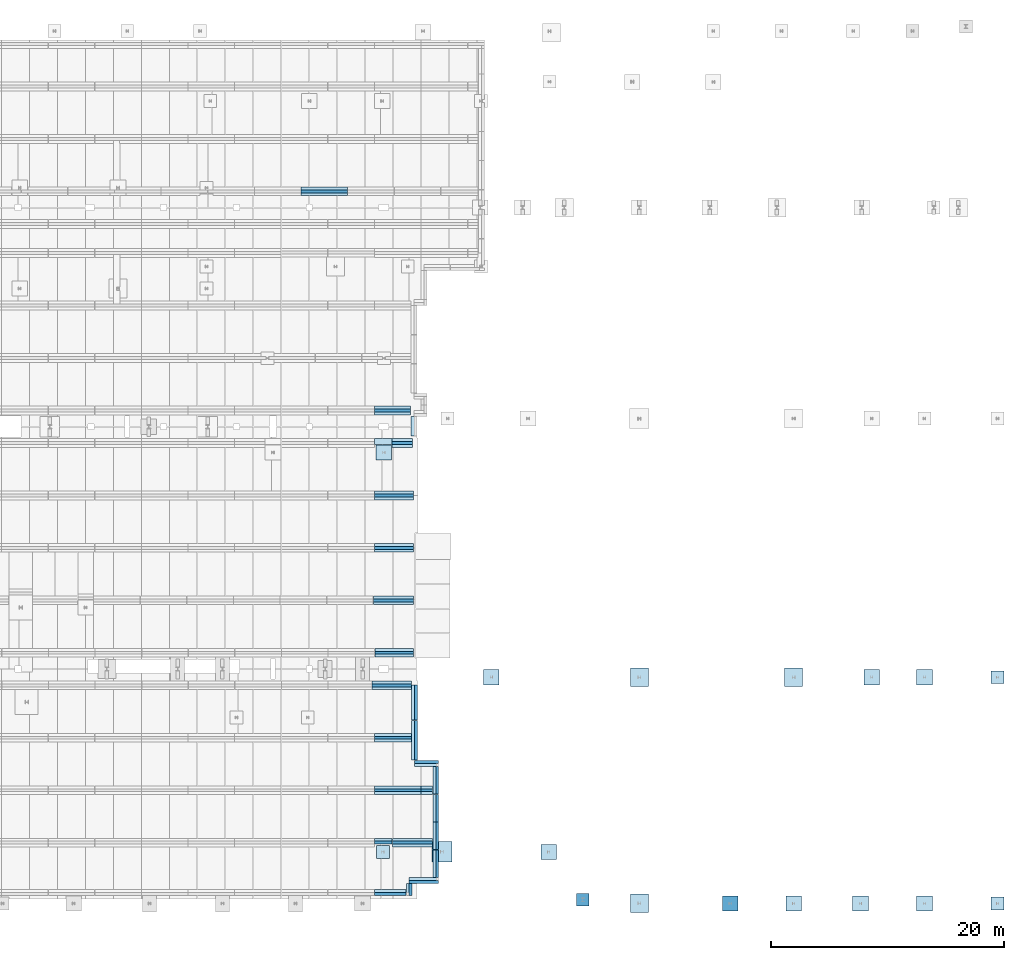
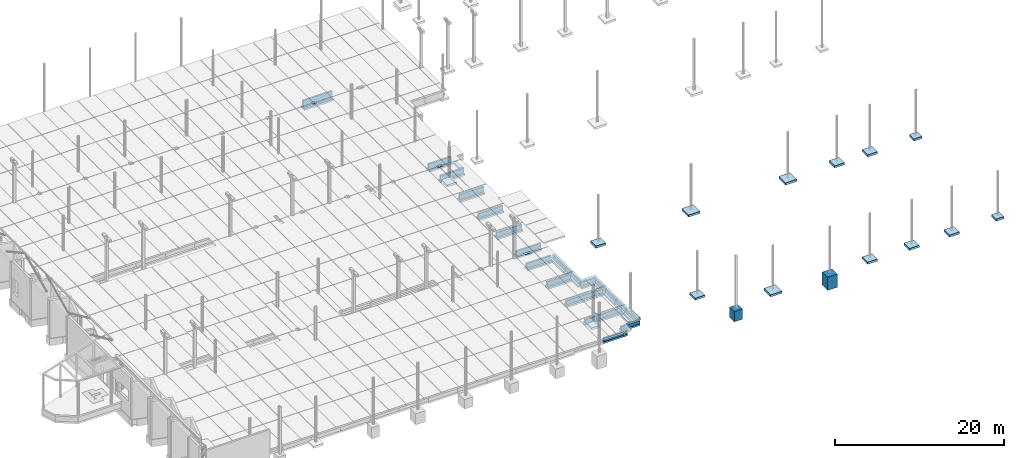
# One storey, part 10 of 59: 65 footings.
"""IFC2X3 building model written with IfcOpenShell, lengths in metres."""

import ifcopenshell
import ifcopenshell.guid

model = None  # the IFC model being written
_history = None  # IfcOwnerHistory: only IFC2X3 demands one
_inside = {}  # id of a spatial element -> (the spatial element, [elements in it])
_under = {}  # id of a project, library or spatial element -> (it, [spatial elements below it])
_declared = {}  # id of a project -> (the project, [libraries it declares])
_typed = {}  # id of a type object -> (the type object, [elements of that type])
_made_of = {}  # id of a material, layer set ... -> (it, [elements and type objects made of it])


def new_model(schema):
    """Start an empty IFC model of exactly this schema.

    Asked for "IFC4X3", IfcOpenShell would pick the latest addendum, in which some entities
    have other attributes; the version numbers below select the first issue.
    IFC2X3 requires an IfcOwnerHistory on every rooted entity: one is made here for all.
    """
    global model, _history
    if schema == "IFC4X3":
        model = ifcopenshell.file(schema_version=(4, 3, 0, 0))
    else:
        model = ifcopenshell.file(schema=schema)
    _inside.clear()
    _under.clear()
    _declared.clear()
    _typed.clear()
    _made_of.clear()
    _history = None
    if model.schema == "IFC2X3":
        org = make("IfcOrganization", Name="unknown")
        user = make(
            "IfcPersonAndOrganization",
            ThePerson=make("IfcPerson", FamilyName="unknown"),
            TheOrganization=org,
        )
        app = make(
            "IfcApplication",
            ApplicationDeveloper=org,
            Version="unknown",
            ApplicationFullName="unknown",
            ApplicationIdentifier="unknown",
        )
        _history = make(
            "IfcOwnerHistory",
            OwningUser=user,
            OwningApplication=app,
            ChangeAction="ADDED",
            CreationDate=0,
        )
    return model


def make(cls, **values):
    """One entity of the class cls with the attributes given. An attribute that is None is left unset."""
    return model.create_entity(
        cls, **{name: value for name, value in values.items() if value is not None}
    )


def entity(cls, *values):
    """Any entity or typed value of the class cls, its attributes in the order of the schema. None: left unset."""
    e = model.create_entity(cls)
    for i, value in enumerate(values):
        if value is not None:
            e[i] = value
    return e


def rooted(cls, **values):
    """An entity with a GlobalId (a new one), such as an element, a storey or a relation."""
    return make(cls, GlobalId=ifcopenshell.guid.new(), OwnerHistory=_history, **values)


def si_unit(unit_type, name, prefix=None):
    """IfcSIUnit, for example si_unit("LENGTHUNIT", "METRE", prefix="MILLI")."""
    return make("IfcSIUnit", UnitType=unit_type, Prefix=prefix, Name=name)


def converted_unit(unit_type, name, factor, base, dimensions=None, offset=None):
    """IfcConversionBasedUnit, such as the inch: factor (a typed value) times the base unit."""
    return make(
        "IfcConversionBasedUnit"
        if offset is None
        else "IfcConversionBasedUnitWithOffset",
        ConversionOffset=offset,
        Dimensions=None
        if dimensions is None
        else entity("IfcDimensionalExponents", *dimensions),
        UnitType=unit_type,
        Name=name,
        ConversionFactor=make(
            "IfcMeasureWithUnit", ValueComponent=factor, UnitComponent=base
        ),
    )


def derived_unit(unit_type, elements):
    """IfcDerivedUnit: a product of units, each with its exponent."""
    return make(
        "IfcDerivedUnit",
        Elements=[
            make("IfcDerivedUnitElement", Unit=unit, Exponent=power)
            for unit, power in elements
        ],
        UnitType=unit_type,
    )


def assignment(units):
    """IfcUnitAssignment: the units of a project."""
    return None if units is None else make("IfcUnitAssignment", Units=units)


def point(xyz):
    """IfcCartesianPoint."""
    return None if xyz is None else make("IfcCartesianPoint", Coordinates=xyz)


def direction(xyz):
    """IfcDirection."""
    return None if xyz is None else make("IfcDirection", DirectionRatios=xyz)


def frame(location, z_axis=None, x_axis=None):
    """IfcAxis2Placement3D, a coordinate frame: its origin and axes. An axis left out is left unset."""
    return make(
        "IfcAxis2Placement3D",
        Location=point(location),
        Axis=direction(z_axis),
        RefDirection=direction(x_axis),
    )


def frame_2d(location, x_axis=None):
    """IfcAxis2Placement2D, a coordinate frame in the plane: its origin and x axis."""
    return make(
        "IfcAxis2Placement2D", Location=point(location), RefDirection=direction(x_axis)
    )


def origin():
    """The frame at (0, 0, 0) with its axes left unset."""
    return frame((0.0, 0.0, 0.0))


def origin_with_axes():
    """The frame at (0, 0, 0) with the z axis (0, 0, 1) and the x axis (1, 0, 0) written out."""
    return frame((0.0, 0.0, 0.0), z_axis=(0.0, 0.0, 1.0), x_axis=(1.0, 0.0, 0.0))


def place(relative_to, where):
    """IfcLocalPlacement: puts the frame where relative to a parent placement (None: the world)."""
    return make(
        "IfcLocalPlacement", PlacementRelTo=relative_to, RelativePlacement=where
    )


def context(
    kind, dimensions, precision=None, world=None, true_north=None, identifier=None
):
    """IfcGeometricRepresentationContext, for example the 3D "Model" context."""
    return make(
        "IfcGeometricRepresentationContext",
        ContextIdentifier=identifier,
        ContextType=kind,
        CoordinateSpaceDimension=dimensions,
        Precision=precision,
        WorldCoordinateSystem=world,
        TrueNorth=true_north,
    )


def subcontext(parent, identifier, kind, view, scale=None):
    """IfcGeometricRepresentationSubContext, for example "Body" below "Model"."""
    return make(
        "IfcGeometricRepresentationSubContext",
        ContextIdentifier=identifier,
        ContextType=kind,
        ParentContext=parent,
        TargetScale=scale,
        TargetView=view,
    )


def project(units=None, contexts=None):
    """IfcProject with its units and contexts."""
    return rooted(
        "IfcProject",
        Name="project",
        RepresentationContexts=contexts,
        UnitsInContext=assignment(units),
    )


def spatial(cls, under=None, at=None, **own):
    """A site, building, storey or space (cls), placed at a placement, below another one or the project."""
    s = rooted(cls, ObjectPlacement=at, **own)
    if under is not None:
        _under.setdefault(under.id(), (under, []))[1].append(s)
    return s


def profile(cls, at=None, kind="AREA", **sizes):
    """A parametric profile (cls). Its sizes go by their IFC names, for example OverallWidth=200.0."""
    return make(cls, ProfileType=kind, Position=at, **sizes)


def rectangle(**sizes):
    """IfcRectangleProfileDef."""
    return profile("IfcRectangleProfileDef", **sizes)


def extrude(swept, where, along, depth):
    """IfcExtrudedAreaSolid: the profile swept, set in the frame where, extruded along a direction by depth."""
    return make(
        "IfcExtrudedAreaSolid",
        SweptArea=swept,
        Position=where,
        ExtrudedDirection=direction(along),
        Depth=depth,
    )


def shape(context_of_items, identifier, shape_type, items):
    """IfcShapeRepresentation: the items that make up one representation, for example the "Body"."""
    return make(
        "IfcShapeRepresentation",
        ContextOfItems=context_of_items,
        RepresentationIdentifier=identifier,
        RepresentationType=shape_type,
        Items=items,
    )


def material(Name=None, Category=None):
    """IfcMaterial."""
    return make("IfcMaterial", Name=Name, Category=Category)


def made_of(thing, what):
    """Note that an element or type object is made of a material, layer set ...; save() writes the relation."""
    if what is not None:
        _made_of.setdefault(what.id(), (what, []))[1].append(thing)
    return thing


def element(
    cls,
    number,
    at=None,
    inside=None,
    cuts=None,
    type_object=None,
    material=None,
    context=None,
    identifier="Body",
    shape_type=None,
    held_by="IfcProductDefinitionShape",
    body=None,
    shapes=None,
    **own,
):
    """One element of the class cls, such as IfcWall. Its Tag is "e" and its number.

    at: its placement. inside: the storey or other place that contains it. cuts: it is an
    opening in that element (IfcRelVoidsElement). A single representation is given by context,
    identifier, shape_type and body (its items); several are given by shapes. held_by: the class
    of the entity that holds the representations. save() writes the other relations.
    """
    e = rooted(cls, Tag="e%d" % number, ObjectPlacement=at, **own)
    if body is not None:
        shapes = [shape(context, identifier, shape_type, body)]
    if shapes is not None:
        e.Representation = make(held_by, Representations=shapes)
    if inside is not None:
        _inside.setdefault(inside.id(), (inside, []))[1].append(e)
    if cuts is not None:
        rooted(
            "IfcRelVoidsElement", RelatingBuildingElement=cuts, RelatedOpeningElement=e
        )
    if type_object is not None:
        _typed.setdefault(type_object.id(), (type_object, []))[1].append(e)
    return made_of(e, material)


def aggregate(whole, parts):
    """IfcRelAggregates: a whole, such as a stair, and the parts it consists of."""
    return rooted("IfcRelAggregates", RelatingObject=whole, RelatedObjects=parts)


def save(model, path):
    """Write the relations noted so far, then the file.

    IfcRelAggregates (storeys below a building ...), IfcRelContainedInSpatialStructure (elements
    in a storey), IfcRelDefinesByType, IfcRelAssociatesMaterial and IfcRelDeclares: one each for
    every whole, place, type object, material and project.
    """
    for whole, parts in _under.values():
        aggregate(whole, parts)
    for where, things in _inside.values():
        rooted(
            "IfcRelContainedInSpatialStructure",
            RelatedElements=things,
            RelatingStructure=where,
        )
    for kind, things in _typed.values():
        rooted("IfcRelDefinesByType", RelatedObjects=things, RelatingType=kind)
    for what, things in _made_of.values():
        rooted("IfcRelAssociatesMaterial", RelatedObjects=things, RelatingMaterial=what)
    for by, libraries in _declared.values():
        rooted("IfcRelDeclares", RelatingContext=by, RelatedDefinitions=libraries)
    model.write(path)


model = new_model("IFC2X3")

# Units and contexts
model_context = context("Model", 3, precision=1e-05, world=origin())
body_context = subcontext(model_context, "Body", "Model", "MODEL_VIEW")
ifc_project = project(units=[si_unit("LENGTHUNIT", "METRE"), si_unit("AREAUNIT", "SQUARE_METRE"), si_unit("VOLUMEUNIT", "CUBIC_METRE"), si_unit("MASSUNIT", "GRAM", prefix="KILO"), converted_unit("PLANEANGLEUNIT", "DEGREE", entity("IfcPlaneAngleMeasure", 0.0174532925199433), si_unit("PLANEANGLEUNIT", "RADIAN"), dimensions=[0, 0, 0, 0, 0, 0, 0]), derived_unit("THERMALTRANSMITTANCEUNIT", [(si_unit("POWERUNIT", "WATT"), 1), (si_unit("THERMODYNAMICTEMPERATUREUNIT", "KELVIN"), -1), (si_unit("LENGTHUNIT", "METRE"), -2)]), derived_unit("VOLUMETRICFLOWRATEUNIT", [(si_unit("LENGTHUNIT", "METRE"), 3), (converted_unit("TIMEUNIT", "hour", entity("IfcTimeMeasure", 3600.0), si_unit("TIMEUNIT", "SECOND"), dimensions=[0, 0, 1, 0, 0, 0, 0]), -1), (si_unit("LENGTHUNIT", "METRE"), -1)])], contexts=[model_context])

# Site, building, storey
site_placement = place(None, origin())
site = spatial("IfcSite", under=ifc_project, at=site_placement, Name="TWP_Speiseverteilzentrum SBW VZ II", CompositionType="ELEMENT")
building_placement = place(site_placement, origin())
building = spatial("IfcBuilding", under=site, at=building_placement, Name="Speiseverteilzentrum SBW VZ II", CompositionType="ELEMENT")
storey_placement = place(building_placement, frame((0.0, 0.0, 1.7307)))
storey = spatial("IfcBuildingStorey", under=building, at=storey_placement, Name="EG_Produktion_FFB", CompositionType="ELEMENT", Elevation=1.7307)

# Footings
ifc_material_1 = material(Name="Stahlbeton")
footing_1_placement = place(storey_placement, frame((79.8693226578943, 14.4600999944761, -1.86)))
element("IfcFooting", 1, at=footing_1_placement, inside=storey, material=ifc_material_1, Name="Stb.-Einzelfundament", ObjectType="COLUMN_FOUNDATION", PredefinedType="USERDEFINED", context=body_context, shape_type="SweptSolid", body=[
    extrude(rectangle(XDim=1.35, YDim=1.3, at=frame_2d((0.675, 0.65), x_axis=(1.0, 0.0))), origin_with_axes(), (0.0, 0.0, 1.0), 0.3),
])
ifc_material_2 = material(Name="Stahlbeton")
footing_2_placement = place(storey_placement, frame((74.9499999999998, 29.4497343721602, -1.71)))
element("IfcFooting", 2, at=footing_2_placement, inside=storey, material=ifc_material_2, Name="Stb.-Einzelfundament", ObjectType="COLUMN_FOUNDATION", PredefinedType="USERDEFINED", context=body_context, shape_type="SweptSolid", body=[
    extrude(rectangle(XDim=1.35, YDim=1.3, at=frame_2d((0.675, 0.65), x_axis=(1.0, 0.0))), origin_with_axes(), (0.0, 0.0, 1.0), 0.3),
])
ifc_material_3 = material(Name="Stahlbeton")
footing_3_placement = place(storey_placement, frame((87.5516307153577, 9.89014858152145, -1.3)))
element("IfcFooting", 3, at=footing_3_placement, inside=storey, material=ifc_material_3, Name="Stb.-Einzelfundament", ObjectType="COLUMN_FOUNDATION", PredefinedType="USERDEFINED", context=body_context, shape_type="SweptSolid", body=[
    extrude(rectangle(XDim=1.55, YDim=1.6, at=frame_2d((0.775, 0.8), x_axis=(1.0, 0.0))), origin_with_axes(), (0.0, 0.0, 1.0), 0.3),
])
ifc_material_4 = material(Name="Stahlbeton")
footing_4_placement = place(storey_placement, frame((100.9, 10.0401485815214, -1.35)))
element("IfcFooting", 4, at=footing_4_placement, inside=storey, material=ifc_material_4, Name="Stb.-Einzelfundament", ObjectType="COLUMN_FOUNDATION", PredefinedType="USERDEFINED", context=body_context, shape_type="SweptSolid", body=[
    extrude(rectangle(XDim=1.35, YDim=1.3, at=frame_2d((0.675, 0.65), x_axis=(1.0, 0.0))), origin_with_axes(), (0.0, 0.0, 1.0), 0.3),
])
ifc_material_5 = material(Name="Stahlbeton")
footing_5_placement = place(storey_placement, frame((106.625, 10.0401485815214, -1.35)))
element("IfcFooting", 5, at=footing_5_placement, inside=storey, material=ifc_material_5, Name="Stb.-Einzelfundament", ObjectType="COLUMN_FOUNDATION", PredefinedType="USERDEFINED", context=body_context, shape_type="SweptSolid", body=[
    extrude(rectangle(XDim=1.35, YDim=1.3, at=frame_2d((0.675, 0.65), x_axis=(1.0, 0.0))), origin_with_axes(), (0.0, 0.0, 1.0), 0.3),
])
ifc_material_6 = material(Name="Stahlbeton")
footing_6_placement = place(storey_placement, frame((112.125, 10.0401485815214, -1.35)))
element("IfcFooting", 6, at=footing_6_placement, inside=storey, material=ifc_material_6, Name="Stb.-Einzelfundament", ObjectType="COLUMN_FOUNDATION", PredefinedType="USERDEFINED", context=body_context, shape_type="SweptSolid", body=[
    extrude(rectangle(XDim=1.35, YDim=1.3, at=frame_2d((0.675, 0.65), x_axis=(1.0, 0.0))), origin_with_axes(), (0.0, 0.0, 1.0), 0.3),
])
ifc_material_7 = material(Name="Stahlbeton")
footing_7_placement = place(storey_placement, frame((118.525, 10.1401485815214, -1.35)))
element("IfcFooting", 7, at=footing_7_placement, inside=storey, material=ifc_material_7, Name="Stb.-Einzelfundament", ObjectType="COLUMN_FOUNDATION", PredefinedType="USERDEFINED", context=body_context, shape_type="SweptSolid", body=[
    extrude(rectangle(XDim=1.1, YDim=1.1, at=frame_2d((0.55, 0.55), x_axis=(1.0, 0.0))), origin_with_axes(), (0.0, 0.0, 1.0), 0.3),
])
ifc_material_8 = material(Name="Stahlbeton")
footing_8_placement = place(storey_placement, frame((87.5516307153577, 29.2997343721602, -1.525)))
element("IfcFooting", 8, at=footing_8_placement, inside=storey, material=ifc_material_8, Name="Stb.-Einzelfundament", ObjectType="COLUMN_FOUNDATION", PredefinedType="USERDEFINED", context=body_context, shape_type="SweptSolid", body=[
    extrude(rectangle(XDim=1.55, YDim=1.6, at=frame_2d((0.775, 0.8), x_axis=(1.0, 0.0))), origin_with_axes(), (0.0, 0.0, 1.0), 0.3),
])
ifc_material_9 = material(Name="Stahlbeton")
footing_9_placement = place(storey_placement, frame((100.8, 29.2997343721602, -1.525)))
element("IfcFooting", 9, at=footing_9_placement, inside=storey, material=ifc_material_9, Name="Stb.-Einzelfundament", ObjectType="COLUMN_FOUNDATION", PredefinedType="USERDEFINED", context=body_context, shape_type="SweptSolid", body=[
    extrude(rectangle(XDim=1.55, YDim=1.6, at=frame_2d((0.775, 0.8), x_axis=(1.0, 0.0))), origin_with_axes(), (0.0, 0.0, 1.0), 0.3),
])
ifc_material_10 = material(Name="Stahlbeton")
footing_10_placement = place(storey_placement, frame((112.125, 29.4500000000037, -1.525)))
element("IfcFooting", 10, at=footing_10_placement, inside=storey, material=ifc_material_10, Name="Stb.-Einzelfundament", ObjectType="COLUMN_FOUNDATION", PredefinedType="USERDEFINED", context=body_context, shape_type="SweptSolid", body=[
    extrude(rectangle(XDim=1.35, YDim=1.3, at=frame_2d((0.675, 0.65), x_axis=(1.0, 0.0))), origin_with_axes(), (0.0, 0.0, 1.0), 0.3),
])
ifc_material_11 = material(Name="Stahlbeton")
footing_11_placement = place(storey_placement, frame((118.525, 29.5500000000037, -1.525)))
element("IfcFooting", 11, at=footing_11_placement, inside=storey, material=ifc_material_11, Name="Stb.-Einzelfundament", ObjectType="COLUMN_FOUNDATION", PredefinedType="USERDEFINED", context=body_context, shape_type="SweptSolid", body=[
    extrude(rectangle(XDim=1.1, YDim=1.1, at=frame_2d((0.55, 0.55), x_axis=(1.0, 0.0))), origin_with_axes(), (0.0, 0.0, 1.0), 0.3),
])
ifc_material_12 = material(Name="Stahlbeton")
footing_12_placement = place(storey_placement, frame((95.4500000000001, 10.0401485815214, -3.21)))
element("IfcFooting", 12, at=footing_12_placement, inside=storey, material=ifc_material_12, Name="Stb.-Einzelfundament", ObjectType="COLUMN_FOUNDATION", PredefinedType="USERDEFINED", context=body_context, shape_type="SweptSolid", body=[
    extrude(rectangle(XDim=1.35, YDim=1.3, at=frame_2d((0.675, 0.65), x_axis=(1.0, 0.0))), origin_with_axes(), (0.0, 0.0, 1.0), 1.9),
])
ifc_material_13 = material(Name="Stahlbeton")
footing_13_placement = place(storey_placement, frame((65.7194595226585, 48.7500000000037, -1.35)))
element("IfcFooting", 13, at=footing_13_placement, inside=storey, material=ifc_material_13, Name="Stb.-Einzelfundament", ObjectType="COLUMN_FOUNDATION", PredefinedType="USERDEFINED", context=body_context, shape_type="SweptSolid", body=[
    extrude(rectangle(XDim=1.35, YDim=1.3, at=frame_2d((0.675, 0.65), x_axis=(1.0, 0.0))), origin_with_axes(), (0.0, 0.0, 1.0), 0.3),
])
ifc_material_14 = material(Name="Stahlbeton")
footing_14_placement = place(storey_placement, frame((70.5344131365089, 14.2350999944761, -1.86)))
element("IfcFooting", 14, at=footing_14_placement, inside=storey, material=ifc_material_14, Name="Stb.-Einzelfundament", ObjectType="COLUMN_FOUNDATION", PredefinedType="USERDEFINED", context=body_context, shape_type="SweptSolid", body=[
    extrude(rectangle(XDim=1.7, YDim=1.75, at=frame_2d((0.85, 0.875), x_axis=(1.0, 0.0))), origin_with_axes(), (0.0, 0.0, 1.0), 0.3),
])
ifc_material_15 = material(Name="Stahlbeton")
footing_15_placement = place(storey_placement, frame((65.7744599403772, 14.5600999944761, -1.29)))
element("IfcFooting", 15, at=footing_15_placement, inside=storey, material=ifc_material_15, Name="Stb.-Einzelfundament", ObjectType="COLUMN_FOUNDATION", PredefinedType="USERDEFINED", context=body_context, shape_type="SweptSolid", body=[
    extrude(rectangle(XDim=1.1, YDim=1.1, at=frame_2d((0.55, 0.55), x_axis=(1.0, 0.0))), origin_with_axes(), (0.0, 0.0, 1.0), 0.3),
])
ifc_material_16 = material(Name="Stahlbeton")
footing_16_placement = place(storey_placement, frame((107.6, 29.4500000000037, -1.525)))
element("IfcFooting", 16, at=footing_16_placement, inside=storey, material=ifc_material_16, Name="Stb.-Einzelfundament", ObjectType="COLUMN_FOUNDATION", PredefinedType="USERDEFINED", context=body_context, shape_type="SweptSolid", body=[
    extrude(rectangle(XDim=1.35, YDim=1.3, at=frame_2d((0.675, 0.65), x_axis=(1.0, 0.0))), origin_with_axes(), (0.0, 0.0, 1.0), 0.3),
])
ifc_material_17 = material(Name="Stahlbetonfertigteil")
footing_17_placement = place(storey_placement, frame((65.5999999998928, 15.7750000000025, -1.27)))
element("IfcFooting", 17, at=footing_17_placement, inside=storey, material=ifc_material_17, Name="Stahlbetonfertigteilfundament", PredefinedType="STRIP_FOOTING", context=body_context, shape_type="SweptSolid", body=[
    extrude(rectangle(XDim=0.500000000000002, YDim=0.25, at=frame_2d((0.250000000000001, 0.125), x_axis=(1.0, 0.0))), frame((0.0, 0.0, 0.0), z_axis=(1.0, 0.0, 0.0), x_axis=(0.0, 1.0, 0.0)), (0.0, 0.0, 1.0), 1.51000000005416),
])
ifc_material_18 = material(Name="Stahlbetonfertigteil")
footing_18_placement = place(storey_placement, frame((65.5999999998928, 15.7750000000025, -1.02)))
element("IfcFooting", 18, at=footing_18_placement, inside=storey, material=ifc_material_18, Name="Stahlbetonfertigteilfundament", PredefinedType="STRIP_FOOTING", context=body_context, shape_type="SweptSolid", body=[
    extrude(rectangle(XDim=0.25, YDim=0.55, at=frame_2d((0.125, 0.275), x_axis=(1.0, 0.0))), frame((0.0, 0.0, 0.0), z_axis=(1.0, 0.0, 0.0), x_axis=(0.0, 1.0, 0.0)), (0.0, 0.0, 1.0), 1.51000000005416),
])
ifc_material_19 = material(Name="Stahlbetonfertigteil")
footing_19_placement = place(storey_placement, frame((69.2750000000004, 22.9749999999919, -1.05), z_axis=(0.0, 0.0, 1.0), x_axis=(0.0, 1.0, 0.0)))
element("IfcFooting", 19, at=footing_19_placement, inside=storey, material=ifc_material_19, Name="Stahlbetonfertigteilfundament", PredefinedType="STRIP_FOOTING", context=body_context, shape_type="SweptSolid", body=[
    extrude(rectangle(XDim=0.25, YDim=0.58, at=frame_2d((0.125, 0.29), x_axis=(1.0, 0.0))), frame((0.0, 0.0, 0.0), z_axis=(1.0, 0.0, 0.0), x_axis=(0.0, 1.0, 0.0)), (0.0, 0.0, 1.0), 3.417),
])
ifc_material_20 = material(Name="Stahlbetonfertigteil")
footing_20_placement = place(storey_placement, frame((71.1100000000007, 20.0625473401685, -1.05), z_axis=(0.0, 0.0, 1.0), x_axis=(1.84011029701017e-14, 1.0, 0.0)))
element("IfcFooting", 20, at=footing_20_placement, inside=storey, material=ifc_material_20, Name="Stahlbetonfertigteilfundament", PredefinedType="STRIP_FOOTING", context=body_context, shape_type="SweptSolid", body=[
    extrude(rectangle(XDim=0.25, YDim=0.58, at=frame_2d((0.125, 0.29), x_axis=(1.0, 0.0))), frame((0.0, 0.0, 0.0), z_axis=(1.0, 0.0, 0.0), x_axis=(0.0, 1.0, 0.0)), (0.0, 0.0, 1.0), 2.37245265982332),
])
ifc_material_21 = material(Name="Stahlbetonfertigteil")
footing_21_placement = place(storey_placement, frame((69.2750000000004, 22.9749999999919, -1.3), z_axis=(0.0, 0.0, 1.0), x_axis=(0.0, 1.0, 0.0)))
element("IfcFooting", 21, at=footing_21_placement, inside=storey, material=ifc_material_21, Name="Stahlbetonfertigteilfundament", PredefinedType="STRIP_FOOTING", context=body_context, shape_type="SweptSolid", body=[
    extrude(rectangle(XDim=0.5, YDim=0.25, at=frame_2d((0.25, 0.125), x_axis=(1.0, 0.0))), frame((0.0, 0.0, 0.0), z_axis=(1.0, 0.0, 0.0), x_axis=(0.0, 1.0, 0.0)), (0.0, 0.0, 1.0), 3.417),
])
ifc_material_22 = material(Name="Stahlbetonfertigteil")
footing_22_placement = place(storey_placement, frame((71.1100000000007, 20.0625473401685, -1.3), z_axis=(0.0, 0.0, 1.0), x_axis=(1.84011029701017e-14, 1.0, 0.0)))
element("IfcFooting", 22, at=footing_22_placement, inside=storey, material=ifc_material_22, Name="Stahlbetonfertigteilfundament", PredefinedType="STRIP_FOOTING", context=body_context, shape_type="SweptSolid", body=[
    extrude(rectangle(XDim=0.5, YDim=0.25, at=frame_2d((0.25, 0.125), x_axis=(1.0, 0.0))), frame((0.0, 0.0, 0.0), z_axis=(1.0, 0.0, 0.0), x_axis=(0.0, 1.0, 0.0)), (0.0, 0.0, 1.0), 2.37245265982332),
])
ifc_material_23 = material(Name="Stahlbetonfertigteil")
footing_23_placement = place(storey_placement, frame((71.1100000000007, 15.2976420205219, -1.0), z_axis=(0.0, 0.0, 1.0), x_axis=(1.84789927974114e-14, 1.0, 0.0)))
element("IfcFooting", 23, at=footing_23_placement, inside=storey, material=ifc_material_23, Name="Stahlbetonfertigteilfundament", PredefinedType="STRIP_FOOTING", context=body_context, shape_type="SweptSolid", body=[
    extrude(rectangle(XDim=0.25, YDim=0.53, at=frame_2d((0.125, 0.265), x_axis=(1.0, 0.0))), frame((0.0, 0.0, 0.0), z_axis=(1.0, 0.0, 0.0), x_axis=(0.0, 1.0, 0.0)), (0.0, 0.0, 1.0), 2.36245265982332),
])
ifc_material_24 = material(Name="Stahlbetonfertigteil")
footing_24_placement = place(storey_placement, frame((71.1100000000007, 17.6800946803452, -1.0), z_axis=(0.0, 0.0, 1.0), x_axis=(1.84789927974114e-14, 1.0, 0.0)))
element("IfcFooting", 24, at=footing_24_placement, inside=storey, material=ifc_material_24, Name="Stahlbetonfertigteilfundament", PredefinedType="STRIP_FOOTING", context=body_context, shape_type="SweptSolid", body=[
    extrude(rectangle(XDim=0.25, YDim=0.53, at=frame_2d((0.125, 0.265), x_axis=(1.0, 0.0))), frame((0.0, 0.0, 0.0), z_axis=(1.0, 0.0, 0.0), x_axis=(0.0, 1.0, 0.0)), (0.0, 0.0, 1.0), 2.36245265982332),
])
ifc_material_25 = material(Name="Stahlbetonfertigteil")
footing_25_placement = place(storey_placement, frame((71.1100000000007, 15.2976420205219, -1.25), z_axis=(0.0, 0.0, 1.0), x_axis=(1.84789927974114e-14, 1.0, 0.0)))
element("IfcFooting", 25, at=footing_25_placement, inside=storey, material=ifc_material_25, Name="Stahlbetonfertigteilfundament", PredefinedType="STRIP_FOOTING", context=body_context, shape_type="SweptSolid", body=[
    extrude(rectangle(XDim=0.5, YDim=0.25, at=frame_2d((0.25, 0.125), x_axis=(1.0, 0.0))), frame((0.0, 0.0, 0.0), z_axis=(1.0, 0.0, 0.0), x_axis=(0.0, 1.0, 0.0)), (0.0, 0.0, 1.0), 2.36245265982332),
])
ifc_material_26 = material(Name="Stahlbetonfertigteil")
footing_26_placement = place(storey_placement, frame((71.1100000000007, 17.6800946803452, -1.25), z_axis=(0.0, 0.0, 1.0), x_axis=(1.84789927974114e-14, 1.0, 0.0)))
element("IfcFooting", 26, at=footing_26_placement, inside=storey, material=ifc_material_26, Name="Stahlbetonfertigteilfundament", PredefinedType="STRIP_FOOTING", context=body_context, shape_type="SweptSolid", body=[
    extrude(rectangle(XDim=0.5, YDim=0.25, at=frame_2d((0.25, 0.125), x_axis=(1.0, 0.0))), frame((0.0, 0.0, 0.0), z_axis=(1.0, 0.0, 0.0), x_axis=(0.0, 1.0, 0.0)), (0.0, 0.0, 1.0), 2.36245265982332),
])
ifc_material_27 = material(Name="Stahlbetonfertigteil")
footing_27_placement = place(storey_placement, frame((71.1100000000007, 12.9199999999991, -0.95), z_axis=(0.0, 0.0, 1.0), x_axis=(1.85166981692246e-14, 1.0, 0.0)))
element("IfcFooting", 27, at=footing_27_placement, inside=storey, material=ifc_material_27, Name="Stahlbetonfertigteilfundament", PredefinedType="STRIP_FOOTING", context=body_context, shape_type="SweptSolid", body=[
    extrude(rectangle(XDim=0.25, YDim=0.48, at=frame_2d((0.125, 0.24), x_axis=(1.0, 0.0))), frame((0.0, 0.0, 0.0), z_axis=(1.0, 0.0, 0.0), x_axis=(0.0, 1.0, 0.0)), (0.0, 0.0, 1.0), 2.35764202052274),
])
ifc_material_28 = material(Name="Stahlbetonfertigteil")
footing_28_placement = place(storey_placement, frame((71.1100000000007, 12.9199999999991, -1.2), z_axis=(0.0, 0.0, 1.0), x_axis=(1.85166981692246e-14, 1.0, 0.0)))
element("IfcFooting", 28, at=footing_28_placement, inside=storey, material=ifc_material_28, Name="Stahlbetonfertigteilfundament", PredefinedType="STRIP_FOOTING", context=body_context, shape_type="SweptSolid", body=[
    extrude(rectangle(XDim=0.5, YDim=0.25, at=frame_2d((0.25, 0.125), x_axis=(1.0, 0.0))), frame((0.0, 0.0, 0.0), z_axis=(1.0, 0.0, 0.0), x_axis=(0.0, 1.0, 0.0)), (0.0, 0.0, 1.0), 2.35764202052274),
])
ifc_material_29 = material(Name="Stahlbetonfertigteil")
footing_29_placement = place(storey_placement, frame((71.1100000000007, 22.9549999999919, -1.05), z_axis=(0.0, 0.0, 1.0), x_axis=(-1.0, 1.22138377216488e-14, 0.0)))
element("IfcFooting", 29, at=footing_29_placement, inside=storey, material=ifc_material_29, Name="Stahlbetonfertigteilfundament", PredefinedType="STRIP_FOOTING", context=body_context, shape_type="SweptSolid", body=[
    extrude(rectangle(XDim=0.25, YDim=0.58, at=frame_2d((0.125, 0.29), x_axis=(1.0, 0.0))), frame((0.0, 0.0, 0.0), z_axis=(1.0, 0.0, 0.0), x_axis=(0.0, 1.0, 0.0)), (0.0, 0.0, 1.0), 2.08500000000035),
])
ifc_material_30 = material(Name="Stahlbetonfertigteil")
footing_30_placement = place(storey_placement, frame((71.1100000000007, 22.9549999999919, -1.3), z_axis=(0.0, 0.0, 1.0), x_axis=(-1.0, 1.22138377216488e-14, 0.0)))
element("IfcFooting", 30, at=footing_30_placement, inside=storey, material=ifc_material_30, Name="Stahlbetonfertigteilfundament", PredefinedType="STRIP_FOOTING", context=body_context, shape_type="SweptSolid", body=[
    extrude(rectangle(XDim=0.5, YDim=0.25, at=frame_2d((0.25, 0.125), x_axis=(1.0, 0.0))), frame((0.0, 0.0, 0.0), z_axis=(1.0, 0.0, 0.0), x_axis=(0.0, 1.0, 0.0)), (0.0, 0.0, 1.0), 2.08500000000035),
])
ifc_material_31 = material(Name="Stahlbetonfertigteil")
footing_31_placement = place(storey_placement, frame((68.5750000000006, 12.3999999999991, -0.95), z_axis=(0.0, 0.0, 1.0), x_axis=(1.0, 1.00457008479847e-14, 0.0)))
element("IfcFooting", 31, at=footing_31_placement, inside=storey, material=ifc_material_31, Name="Stahlbetonfertigteilfundament", PredefinedType="STRIP_FOOTING", context=body_context, shape_type="SweptSolid", body=[
    extrude(rectangle(XDim=0.25, YDim=0.48, at=frame_2d((0.125, 0.24), x_axis=(1.0, 0.0))), frame((0.0, 0.0, 0.0), z_axis=(1.0, 0.0, 0.0), x_axis=(0.0, 1.0, 0.0)), (0.0, 0.0, 1.0), 2.53500000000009),
])
ifc_material_32 = material(Name="Stahlbetonfertigteil")
footing_32_placement = place(storey_placement, frame((68.5750000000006, 12.3999999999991, -1.2), z_axis=(0.0, 0.0, 1.0), x_axis=(1.0, 1.00457008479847e-14, 0.0)))
element("IfcFooting", 32, at=footing_32_placement, inside=storey, material=ifc_material_32, Name="Stahlbetonfertigteilfundament", PredefinedType="STRIP_FOOTING", context=body_context, shape_type="SweptSolid", body=[
    extrude(rectangle(XDim=0.5, YDim=0.25, at=frame_2d((0.25, 0.125), x_axis=(1.0, 0.0))), frame((0.0, 0.0, 0.0), z_axis=(1.0, 0.0, 0.0), x_axis=(0.0, 1.0, 0.0)), (0.0, 0.0, 1.0), 2.53500000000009),
])
ifc_material_33 = material(Name="Stahlbetonfertigteil")
footing_33_placement = place(storey_placement, frame((68.8250000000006, 11.3601485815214, -1.24), z_axis=(0.0, 0.0, 1.0), x_axis=(2.85373240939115e-14, 1.0, 0.0)))
element("IfcFooting", 33, at=footing_33_placement, inside=storey, material=ifc_material_33, Name="Stahlbetonfertigteilfundament", PredefinedType="STRIP_FOOTING", context=body_context, shape_type="SweptSolid", body=[
    extrude(rectangle(XDim=0.5, YDim=0.25, at=frame_2d((0.25, 0.125), x_axis=(1.0, 0.0))), frame((0.0, 0.0, 0.0), z_axis=(1.0, 0.0, 0.0), x_axis=(0.0, 1.0, 0.0)), (0.0, 0.0, 1.0), 1.01985141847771),
])
ifc_material_34 = material(Name="Stahlbetonfertigteil")
footing_34_placement = place(storey_placement, frame((68.8250000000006, 11.3601485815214, -0.99), z_axis=(0.0, 0.0, 1.0), x_axis=(2.85373240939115e-14, 1.0, 0.0)))
element("IfcFooting", 34, at=footing_34_placement, inside=storey, material=ifc_material_34, Name="Stahlbetonfertigteilfundament", PredefinedType="STRIP_FOOTING", context=body_context, shape_type="SweptSolid", body=[
    extrude(rectangle(XDim=0.25, YDim=0.52, at=frame_2d((0.125, 0.26), x_axis=(1.0, 0.0))), frame((0.0, 0.0, 0.0), z_axis=(1.0, 0.0, 0.0), x_axis=(0.0, 1.0, 0.0)), (0.0, 0.0, 1.0), 1.01985141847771),
])
ifc_material_35 = material(Name="Stahlbetonfertigteil")
footing_35_placement = place(storey_placement, frame((65.5999999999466, 11.3601485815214, -0.99)))
element("IfcFooting", 35, at=footing_35_placement, inside=storey, material=ifc_material_35, Name="Stahlbetonfertigteilfundament", PredefinedType="STRIP_FOOTING", context=body_context, shape_type="SweptSolid", body=[
    extrude(rectangle(XDim=0.25, YDim=0.52, at=frame_2d((0.125, 0.26), x_axis=(1.0, 0.0))), frame((0.0, 0.0, 0.0), z_axis=(1.0, 0.0, 0.0), x_axis=(0.0, 1.0, 0.0)), (0.0, 0.0, 1.0), 2.70500000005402),
])
ifc_material_36 = material(Name="Stahlbetonfertigteil")
footing_36_placement = place(storey_placement, frame((65.5999999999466, 11.3601485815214, -1.24)))
element("IfcFooting", 36, at=footing_36_placement, inside=storey, material=ifc_material_36, Name="Stahlbetonfertigteilfundament", PredefinedType="STRIP_FOOTING", context=body_context, shape_type="SweptSolid", body=[
    extrude(rectangle(XDim=0.5, YDim=0.25, at=frame_2d((0.25, 0.125), x_axis=(1.0, 0.0))), frame((0.0, 0.0, 0.0), z_axis=(1.0, 0.0, 0.0), x_axis=(0.0, 1.0, 0.0)), (0.0, 0.0, 1.0), 2.70500000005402),
])
ifc_material_37 = material(Name="Stahlbetonfertigteil")
footing_37_placement = place(storey_placement, frame((65.5999999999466, 50.0750000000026, -1.5)))
element("IfcFooting", 37, at=footing_37_placement, inside=storey, material=ifc_material_37, Name="Stahlbetonfertigteilfundament", PredefinedType="STRIP_FOOTING", context=body_context, shape_type="SweptSolid", body=[
    extrude(rectangle(XDim=0.5, YDim=0.25, at=frame_2d((0.25, 0.125), x_axis=(1.0, 0.0))), frame((0.0, 0.0, 0.0), z_axis=(1.0, 0.0, 0.0), x_axis=(0.0, 1.0, 0.0)), (0.0, 0.0, 1.0), 1.48945952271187),
])
ifc_material_38 = material(Name="Stahlbetonfertigteil")
footing_38_placement = place(storey_placement, frame((68.7250000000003, 52.4550000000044, -1.27), z_axis=(0.0, 0.0, 1.0), x_axis=(0.0, -1.0, 0.0)))
element("IfcFooting", 38, at=footing_38_placement, inside=storey, material=ifc_material_38, Name="Stahlbetonfertigteilfundament", PredefinedType="STRIP_FOOTING", context=body_context, shape_type="SweptSolid", body=[
    extrude(rectangle(XDim=0.5, YDim=0.25, at=frame_2d((0.25, 0.125), x_axis=(1.0, 0.0))), frame((0.0, 0.0, 0.0), z_axis=(1.0, 0.0, 0.0), x_axis=(0.0, 1.0, 0.0)), (0.0, 0.0, 1.0), 1.67500000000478),
])
ifc_material_39 = material(Name="Stahlbetonfertigteil")
footing_39_placement = place(storey_placement, frame((65.5999999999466, 20.2750000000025, -1.05)))
element("IfcFooting", 39, at=footing_39_placement, inside=storey, material=ifc_material_39, Name="Stahlbetonfertigteilfundament", PredefinedType="STRIP_FOOTING", context=body_context, shape_type="SweptSolid", body=[
    extrude(rectangle(XDim=0.25, YDim=0.58, at=frame_2d((0.125, 0.29), x_axis=(1.0, 0.0))), frame((0.0, 0.0, 0.0), z_axis=(1.0, 0.0, 0.0), x_axis=(0.0, 1.0, 0.0)), (0.0, 0.0, 1.0), 3.98000000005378),
])
ifc_material_40 = material(Name="Stahlbetonfertigteil")
footing_40_placement = place(storey_placement, frame((65.5999999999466, 20.0250000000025, -1.3)))
element("IfcFooting", 40, at=footing_40_placement, inside=storey, material=ifc_material_40, Name="Stahlbetonfertigteilfundament", PredefinedType="STRIP_FOOTING", context=body_context, shape_type="SweptSolid", body=[
    extrude(rectangle(XDim=0.75, YDim=0.25, at=frame_2d((0.375, 0.125), x_axis=(1.0, 0.0))), frame((0.0, 0.0, 0.0), z_axis=(1.0, 0.0, 0.0), x_axis=(0.0, 1.0, 0.0)), (0.0, 0.0, 1.0), 3.98000000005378),
])
ifc_material_41 = material(Name="Stahlbetonfertigteil")
footing_41_placement = place(storey_placement, frame((65.5999999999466, 24.5250000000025, -1.4)))
element("IfcFooting", 41, at=footing_41_placement, inside=storey, material=ifc_material_41, Name="Stahlbetonfertigteilfundament", PredefinedType="STRIP_FOOTING", context=body_context, shape_type="SweptSolid", body=[
    extrude(rectangle(XDim=0.75, YDim=0.25, at=frame_2d((0.375, 0.125), x_axis=(1.0, 0.0))), frame((0.0, 0.0, 0.0), z_axis=(1.0, 0.0, 0.0), x_axis=(0.0, 1.0, 0.0)), (0.0, 0.0, 1.0), 3.15500000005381),
])
ifc_material_42 = material(Name="Stahlbetonfertigteil")
footing_42_placement = place(storey_placement, frame((65.5999999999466, 24.7750000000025, -1.15)))
element("IfcFooting", 42, at=footing_42_placement, inside=storey, material=ifc_material_42, Name="Stahlbetonfertigteilfundament", PredefinedType="STRIP_FOOTING", context=body_context, shape_type="SweptSolid", body=[
    extrude(rectangle(XDim=0.25, YDim=0.68, at=frame_2d((0.125, 0.34), x_axis=(1.0, 0.0))), frame((0.0, 0.0, 0.0), z_axis=(1.0, 0.0, 0.0), x_axis=(0.0, 1.0, 0.0)), (0.0, 0.0, 1.0), 3.15500000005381),
])
ifc_material_43 = material(Name="Stahlbetonfertigteil")
footing_43_placement = place(storey_placement, frame((65.3958333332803, 29.0250000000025, -1.4)))
element("IfcFooting", 43, at=footing_43_placement, inside=storey, material=ifc_material_43, Name="Stahlbetonfertigteilfundament", PredefinedType="STRIP_FOOTING", context=body_context, shape_type="SweptSolid", body=[
    extrude(rectangle(XDim=0.75, YDim=0.25, at=frame_2d((0.375, 0.125), x_axis=(1.0, 0.0))), frame((0.0, 0.0, 0.0), z_axis=(1.0, 0.0, 0.0), x_axis=(0.0, 1.0, 0.0)), (0.0, 0.0, 1.0), 3.35916666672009),
])
ifc_material_44 = material(Name="Stahlbetonfertigteil")
footing_44_placement = place(storey_placement, frame((65.3958333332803, 29.2750000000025, -1.15)))
element("IfcFooting", 44, at=footing_44_placement, inside=storey, material=ifc_material_44, Name="Stahlbetonfertigteilfundament", PredefinedType="STRIP_FOOTING", context=body_context, shape_type="SweptSolid", body=[
    extrude(rectangle(XDim=0.25, YDim=0.68, at=frame_2d((0.125, 0.34), x_axis=(1.0, 0.0))), frame((0.0, 0.0, 0.0), z_axis=(1.0, 0.0, 0.0), x_axis=(0.0, 1.0, 0.0)), (0.0, 0.0, 1.0), 3.35916666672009),
])
ifc_material_45 = material(Name="Stahlbetonfertigteil")
footing_45_placement = place(storey_placement, frame((67.129999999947, 15.5250000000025, -1.275)))
element("IfcFooting", 45, at=footing_45_placement, inside=storey, material=ifc_material_45, Name="Stahlbetonfertigteilfundament", PredefinedType="STRIP_FOOTING", context=body_context, shape_type="SweptSolid", body=[
    extrude(rectangle(XDim=0.750000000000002, YDim=0.25, at=frame_2d((0.375000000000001, 0.125), x_axis=(1.0, 0.0))), frame((0.0, 0.0, 0.0), z_axis=(1.0, 0.0, 0.0), x_axis=(0.0, 1.0, 0.0)), (0.0, 0.0, 1.0), 3.46000000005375),
])
ifc_material_46 = material(Name="Stahlbetonfertigteil")
footing_46_placement = place(storey_placement, frame((67.129999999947, 15.7750000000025, -1.025)))
element("IfcFooting", 46, at=footing_46_placement, inside=storey, material=ifc_material_46, Name="Stahlbetonfertigteilfundament", PredefinedType="STRIP_FOOTING", context=body_context, shape_type="SweptSolid", body=[
    extrude(rectangle(XDim=0.25, YDim=0.555, at=frame_2d((0.125, 0.2775), x_axis=(1.0, 0.0))), frame((0.0, 0.0, 0.0), z_axis=(1.0, 0.0, 0.0), x_axis=(0.0, 1.0, 0.0)), (0.0, 0.0, 1.0), 3.46000000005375),
])
ifc_material_47 = material(Name="Stahlbetonfertigteil")
footing_47_placement = place(storey_placement, frame((69.6000000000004, 20.0250000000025, -1.3)))
element("IfcFooting", 47, at=footing_47_placement, inside=storey, material=ifc_material_47, Name="Stahlbetonfertigteilfundament", PredefinedType="STRIP_FOOTING", context=body_context, shape_type="SweptSolid", body=[
    extrude(rectangle(XDim=0.75, YDim=0.25, at=frame_2d((0.375, 0.125), x_axis=(1.0, 0.0))), frame((0.0, 0.0, 0.0), z_axis=(1.0, 0.0, 0.0), x_axis=(0.0, 1.0, 0.0)), (0.0, 0.0, 1.0), 0.990000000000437),
])
ifc_material_48 = material(Name="Stahlbetonfertigteil")
footing_48_placement = place(storey_placement, frame((69.6000000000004, 20.2750000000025, -1.05)))
element("IfcFooting", 48, at=footing_48_placement, inside=storey, material=ifc_material_48, Name="Stahlbetonfertigteilfundament", PredefinedType="STRIP_FOOTING", context=body_context, shape_type="SweptSolid", body=[
    extrude(rectangle(XDim=0.25, YDim=0.58, at=frame_2d((0.125, 0.29), x_axis=(1.0, 0.0))), frame((0.0, 0.0, 0.0), z_axis=(1.0, 0.0, 0.0), x_axis=(0.0, 1.0, 0.0)), (0.0, 0.0, 1.0), 0.990000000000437),
])
ifc_material_49 = material(Name="Stahlbetonfertigteil")
footing_49_placement = place(storey_placement, frame((59.2999999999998, 71.4254127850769, -1.75)))
element("IfcFooting", 49, at=footing_49_placement, inside=storey, material=ifc_material_49, Name="Stahlbetonfertigteilfundament", PredefinedType="STRIP_FOOTING", context=body_context, shape_type="SweptSolid", body=[
    extrude(rectangle(XDim=0.75, YDim=0.25, at=frame_2d((0.375, 0.125), x_axis=(1.0, 0.0))), frame((0.0, 0.0, 0.0), z_axis=(1.0, 0.0, 0.0), x_axis=(0.0, 1.0, 0.0)), (0.0, 0.0, 1.0), 3.98),
])
ifc_material_50 = material(Name="Stahlbetonfertigteil")
footing_50_placement = place(storey_placement, frame((59.2999999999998, 71.6754127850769, -1.5)))
element("IfcFooting", 50, at=footing_50_placement, inside=storey, material=ifc_material_50, Name="Stahlbetonfertigteilfundament", PredefinedType="STRIP_FOOTING", context=body_context, shape_type="SweptSolid", body=[
    extrude(rectangle(XDim=0.25, YDim=1.03, at=frame_2d((0.125, 0.515), x_axis=(1.0, 0.0))), frame((0.0, 0.0, 0.0), z_axis=(1.0, 0.0, 0.0), x_axis=(0.0, 1.0, 0.0)), (0.0, 0.0, 1.0), 3.98),
])
ifc_material_51 = material(Name="Stahlbetonfertigteil")
footing_51_placement = place(storey_placement, frame((65.5999999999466, 45.5750000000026, -1.2)))
element("IfcFooting", 51, at=footing_51_placement, inside=storey, material=ifc_material_51, Name="Stahlbetonfertigteilfundament", PredefinedType="STRIP_FOOTING", context=body_context, shape_type="SweptSolid", body=[
    extrude(rectangle(XDim=0.25, YDim=0.73, at=frame_2d((0.125, 0.365), x_axis=(1.0, 0.0))), frame((0.0, 0.0, 0.0), z_axis=(1.0, 0.0, 0.0), x_axis=(0.0, 1.0, 0.0)), (0.0, 0.0, 1.0), 3.35500000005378),
])
ifc_material_52 = material(Name="Stahlbetonfertigteil")
footing_52_placement = place(storey_placement, frame((65.5999999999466, 45.3250000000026, -1.45)))
element("IfcFooting", 52, at=footing_52_placement, inside=storey, material=ifc_material_52, Name="Stahlbetonfertigteilfundament", PredefinedType="STRIP_FOOTING", context=body_context, shape_type="SweptSolid", body=[
    extrude(rectangle(XDim=0.75, YDim=0.25, at=frame_2d((0.375, 0.125), x_axis=(1.0, 0.0))), frame((0.0, 0.0, 0.0), z_axis=(1.0, 0.0, 0.0), x_axis=(0.0, 1.0, 0.0)), (0.0, 0.0, 1.0), 3.35500000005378),
])
ifc_material_53 = material(Name="Stahlbetonfertigteil")
footing_53_placement = place(storey_placement, frame((65.5999999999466, 52.6250000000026, -1.5)))
element("IfcFooting", 53, at=footing_53_placement, inside=storey, material=ifc_material_53, Name="Stahlbetonfertigteilfundament", PredefinedType="STRIP_FOOTING", context=body_context, shape_type="SweptSolid", body=[
    extrude(rectangle(XDim=0.75, YDim=0.25, at=frame_2d((0.375, 0.125), x_axis=(1.0, 0.0))), frame((0.0, 0.0, 0.0), z_axis=(1.0, 0.0, 0.0), x_axis=(0.0, 1.0, 0.0)), (0.0, 0.0, 1.0), 3.10000000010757),
])
ifc_material_54 = material(Name="Stahlbetonfertigteil")
footing_54_placement = place(storey_placement, frame((65.5999999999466, 52.8750000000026, -1.25)))
element("IfcFooting", 54, at=footing_54_placement, inside=storey, material=ifc_material_54, Name="Stahlbetonfertigteilfundament", PredefinedType="STRIP_FOOTING", context=body_context, shape_type="SweptSolid", body=[
    extrude(rectangle(XDim=0.25, YDim=0.78, at=frame_2d((0.125, 0.39), x_axis=(1.0, 0.0))), frame((0.0, 0.0, 0.0), z_axis=(1.0, 0.0, 0.0), x_axis=(0.0, 1.0, 0.0)), (0.0, 0.0, 1.0), 3.10000000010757),
])
ifc_material_55 = material(Name="Stahlbetonfertigteil")
footing_55_placement = place(storey_placement, frame((67.0894595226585, 49.8250000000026, -1.4)))
element("IfcFooting", 55, at=footing_55_placement, inside=storey, material=ifc_material_55, Name="Stahlbetonfertigteilfundament", PredefinedType="STRIP_FOOTING", context=body_context, shape_type="SweptSolid", body=[
    extrude(rectangle(XDim=0.75, YDim=0.25, at=frame_2d((0.375, 0.125), x_axis=(1.0, 0.0))), frame((0.0, 0.0, 0.0), z_axis=(1.0, 0.0, 0.0), x_axis=(0.0, 1.0, 0.0)), (0.0, 0.0, 1.0), 1.75053956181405),
])
ifc_material_56 = material(Name="Stahlbetonfertigteil")
footing_56_placement = place(storey_placement, frame((65.5999999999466, 50.0750000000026, -1.15)))
element("IfcFooting", 56, at=footing_56_placement, inside=storey, material=ifc_material_56, Name="Stahlbetonfertigteilfundament", PredefinedType="STRIP_FOOTING", context=body_context, shape_type="SweptSolid", body=[
    extrude(rectangle(XDim=0.25, YDim=0.68, at=frame_2d((0.125, 0.34), x_axis=(1.0, 0.0))), frame((0.0, 0.0, 0.0), z_axis=(1.0, 0.0, 0.0), x_axis=(0.0, 1.0, 0.0)), (0.0, 0.0, 1.0), 3.23999908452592),
])
ifc_material_57 = material(Name="Stahlbeton")
footing_57_placement = place(storey_placement, frame((82.9266307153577, 10.4551485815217, -3.62)))
element("IfcFooting", 57, at=footing_57_placement, inside=storey, material=ifc_material_57, Name="Stb.-Einzelfundament", ObjectType="COLUMN_FOUNDATION", PredefinedType="USERDEFINED", context=body_context, shape_type="SweptSolid", body=[
    extrude(rectangle(XDim=1.1, YDim=1.1, at=frame_2d((0.55, 0.55), x_axis=(1.0, 0.0))), origin_with_axes(), (0.0, 0.0, 1.0), 1.5),
])
ifc_material_58 = material(Name="Stahlbetonfertigteil")
footing_58_placement = place(storey_placement, frame((69.2750000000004, 26.4119999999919, -1.35), z_axis=(0.0, 0.0, 1.0), x_axis=(0.0, 1.0, 0.0)))
element("IfcFooting", 58, at=footing_58_placement, inside=storey, material=ifc_material_58, Name="Stahlbetonfertigteilfundament", PredefinedType="STRIP_FOOTING", context=body_context, shape_type="SweptSolid", body=[
    extrude(rectangle(XDim=0.5, YDim=0.25, at=frame_2d((0.25, 0.125), x_axis=(1.0, 0.0))), frame((0.0, 0.0, 0.0), z_axis=(1.0, 0.0, 0.0), x_axis=(0.0, 1.0, 0.0)), (0.0, 0.0, 1.0), 3.02799999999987),
])
ifc_material_59 = material(Name="Stahlbetonfertigteil")
footing_59_placement = place(storey_placement, frame((69.2750000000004, 26.4119999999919, -1.1), z_axis=(0.0, 0.0, 1.0), x_axis=(0.0, 1.0, 0.0)))
element("IfcFooting", 59, at=footing_59_placement, inside=storey, material=ifc_material_59, Name="Stahlbetonfertigteilfundament", PredefinedType="STRIP_FOOTING", context=body_context, shape_type="SweptSolid", body=[
    extrude(rectangle(XDim=0.25, YDim=0.63, at=frame_2d((0.125, 0.315), x_axis=(1.0, 0.0))), frame((0.0, 0.0, 0.0), z_axis=(1.0, 0.0, 0.0), x_axis=(0.0, 1.0, 0.0)), (0.0, 0.0, 1.0), 3.02799999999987),
])
ifc_material_60 = material(Name="Stahlbetonfertigteil")
footing_60_placement = place(storey_placement, frame((65.6199999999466, 32.0750000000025, -1.125)))
element("IfcFooting", 60, at=footing_60_placement, inside=storey, material=ifc_material_60, Name="Stahlbetonfertigteilfundament", PredefinedType="STRIP_FOOTING", context=body_context, shape_type="SweptSolid", body=[
    extrude(rectangle(XDim=0.25, YDim=0.655, at=frame_2d((0.125, 0.3275), x_axis=(1.0, 0.0))), frame((0.0, 0.0, 0.0), z_axis=(1.0, 0.0, 0.0), x_axis=(0.0, 1.0, 0.0)), (0.0, 0.0, 1.0), 3.33500000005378),
])
ifc_material_61 = material(Name="Stahlbetonfertigteil")
footing_61_placement = place(storey_placement, frame((65.6199999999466, 31.8250000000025, -1.375)))
element("IfcFooting", 61, at=footing_61_placement, inside=storey, material=ifc_material_61, Name="Stahlbetonfertigteilfundament", PredefinedType="STRIP_FOOTING", context=body_context, shape_type="SweptSolid", body=[
    extrude(rectangle(XDim=0.75, YDim=0.25, at=frame_2d((0.375, 0.125), x_axis=(1.0, 0.0))), frame((0.0, 0.0, 0.0), z_axis=(1.0, 0.0, 0.0), x_axis=(0.0, 1.0, 0.0)), (0.0, 0.0, 1.0), 3.33500000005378),
])
ifc_material_62 = material(Name="Stahlbetonfertigteil")
footing_62_placement = place(storey_placement, frame((65.4997040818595, 36.3250000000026, -1.35)))
element("IfcFooting", 62, at=footing_62_placement, inside=storey, material=ifc_material_62, Name="Stahlbetonfertigteilfundament", PredefinedType="STRIP_FOOTING", context=body_context, shape_type="SweptSolid", body=[
    extrude(rectangle(XDim=0.75, YDim=0.25, at=frame_2d((0.375, 0.125), x_axis=(1.0, 0.0))), frame((0.0, 0.0, 0.0), z_axis=(1.0, 0.0, 0.0), x_axis=(0.0, 1.0, 0.0)), (0.0, 0.0, 1.0), 3.45529591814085),
])
ifc_material_63 = material(Name="Stahlbetonfertigteil")
footing_63_placement = place(storey_placement, frame((65.4997040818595, 36.5750000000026, -1.1)))
element("IfcFooting", 63, at=footing_63_placement, inside=storey, material=ifc_material_63, Name="Stahlbetonfertigteilfundament", PredefinedType="STRIP_FOOTING", context=body_context, shape_type="SweptSolid", body=[
    extrude(rectangle(XDim=0.25, YDim=0.63, at=frame_2d((0.125, 0.315), x_axis=(1.0, 0.0))), frame((0.0, 0.0, 0.0), z_axis=(1.0, 0.0, 0.0), x_axis=(0.0, 1.0, 0.0)), (0.0, 0.0, 1.0), 3.45529591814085),
])
ifc_material_64 = material(Name="Stahlbetonfertigteil")
footing_64_placement = place(storey_placement, frame((65.5999999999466, 40.8250000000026, -1.35)))
element("IfcFooting", 64, at=footing_64_placement, inside=storey, material=ifc_material_64, Name="Stahlbetonfertigteilfundament", PredefinedType="STRIP_FOOTING", context=body_context, shape_type="SweptSolid", body=[
    extrude(rectangle(XDim=0.75, YDim=0.25, at=frame_2d((0.375, 0.125), x_axis=(1.0, 0.0))), frame((0.0, 0.0, 0.0), z_axis=(1.0, 0.0, 0.0), x_axis=(0.0, 1.0, 0.0)), (0.0, 0.0, 1.0), 3.35500000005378),
])
ifc_material_65 = material(Name="Stahlbetonfertigteil")
footing_65_placement = place(storey_placement, frame((65.5999999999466, 41.0750000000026, -1.1)))
element("IfcFooting", 65, at=footing_65_placement, inside=storey, material=ifc_material_65, Name="Stahlbetonfertigteilfundament", PredefinedType="STRIP_FOOTING", context=body_context, shape_type="SweptSolid", body=[
    extrude(rectangle(XDim=0.25, YDim=0.63, at=frame_2d((0.125, 0.315), x_axis=(1.0, 0.0))), frame((0.0, 0.0, 0.0), z_axis=(1.0, 0.0, 0.0), x_axis=(0.0, 1.0, 0.0)), (0.0, 0.0, 1.0), 3.35500000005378),
])

save(model, "model.ifc")
